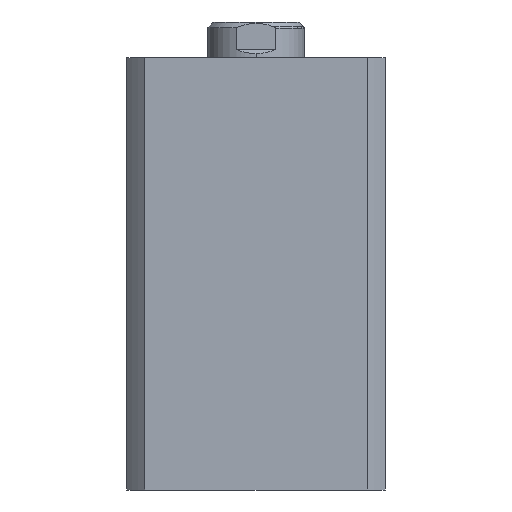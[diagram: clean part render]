
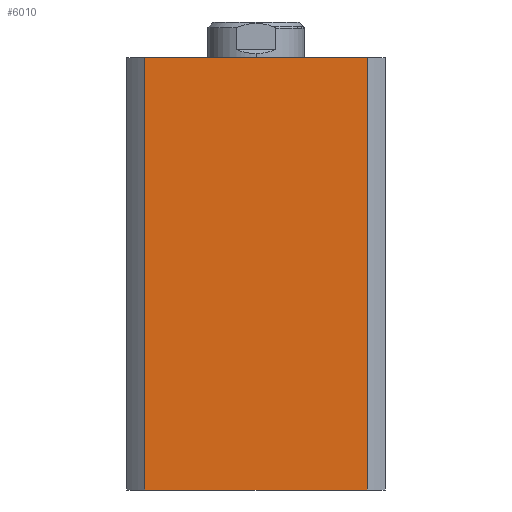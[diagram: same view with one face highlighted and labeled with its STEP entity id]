
A CAD part, left-side view. The second image highlights one B-rep face of the part: STEP entity #6010.
In plain terms, the highlighted planar face has unit normal (-1, 0, 0).
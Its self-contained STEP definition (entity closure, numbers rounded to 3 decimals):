
#311 = ORIENTED_EDGE ( 'NONE', *, *, #14938, .F. ) ;
#525 = CARTESIAN_POINT ( 'NONE',  ( -47., 47., 157. ) ) ;
#652 = ORIENTED_EDGE ( 'NONE', *, *, #2914, .F. ) ;
#698 = CARTESIAN_POINT ( 'NONE',  ( -47., -40.435, -143. ) ) ;
#919 = DIRECTION ( 'NONE',  ( 1., 0., 0. ) ) ;
#1045 = VERTEX_POINT ( 'NONE', #2058 ) ;
#2058 = CARTESIAN_POINT ( 'NONE',  ( -47., 40.435, 157. ) ) ;
#2197 = LINE ( 'NONE', #698, #17735 ) ;
#2693 = LINE ( 'NONE', #14194, #5878 ) ;
#2914 = EDGE_CURVE ( 'NONE', #1045, #15572, #15916, .T. ) ;
#2916 = LINE ( 'NONE', #17722, #17011 ) ;
#5453 = VECTOR ( 'NONE', #11454, 1000. ) ;
#5878 = VECTOR ( 'NONE', #7383, 1000. ) ;
#6010 = ADVANCED_FACE ( 'NONE', ( #16314 ), #7737, .F. ) ;
#6609 = ORIENTED_EDGE ( 'NONE', *, *, #7549, .F. ) ;
#7116 = VERTEX_POINT ( 'NONE', #17254 ) ;
#7383 = DIRECTION ( 'NONE',  ( 0., -1., 0. ) ) ;
#7549 = EDGE_CURVE ( 'NONE', #15572, #16844, #2197, .T. ) ;
#7737 = PLANE ( 'NONE',  #11858 ) ;
#9774 = DIRECTION ( 'NONE',  ( 0., 0., 1. ) ) ;
#10472 = DIRECTION ( 'NONE',  ( 0., 1., 0. ) ) ;
#11316 = ORIENTED_EDGE ( 'NONE', *, *, #17323, .T. ) ;
#11454 = DIRECTION ( 'NONE',  ( 0., -1., 0. ) ) ;
#11620 = CARTESIAN_POINT ( 'NONE',  ( -47., -40.435, 0. ) ) ;
#11858 = AXIS2_PLACEMENT_3D ( 'NONE', #17271, #919, #10472 ) ;
#12087 = EDGE_LOOP ( 'NONE', ( #311, #11316, #6609, #652 ) ) ;
#14194 = CARTESIAN_POINT ( 'NONE',  ( -47., 47., 0. ) ) ;
#14938 = EDGE_CURVE ( 'NONE', #7116, #1045, #2916, .T. ) ;
#15572 = VERTEX_POINT ( 'NONE', #17528 ) ;
#15916 = LINE ( 'NONE', #525, #5453 ) ;
#16314 = FACE_OUTER_BOUND ( 'NONE', #12087, .T. ) ;
#16844 = VERTEX_POINT ( 'NONE', #11620 ) ;
#17011 = VECTOR ( 'NONE', #9774, 1000. ) ;
#17054 = DIRECTION ( 'NONE',  ( 0., 0., -1. ) ) ;
#17254 = CARTESIAN_POINT ( 'NONE',  ( -47., 40.435, 0. ) ) ;
#17271 = CARTESIAN_POINT ( 'NONE',  ( -47., 47., 157. ) ) ;
#17323 = EDGE_CURVE ( 'NONE', #7116, #16844, #2693, .T. ) ;
#17528 = CARTESIAN_POINT ( 'NONE',  ( -47., -40.435, 157. ) ) ;
#17722 = CARTESIAN_POINT ( 'NONE',  ( -47., 40.435, -143. ) ) ;
#17735 = VECTOR ( 'NONE', #17054, 1000. ) ;
